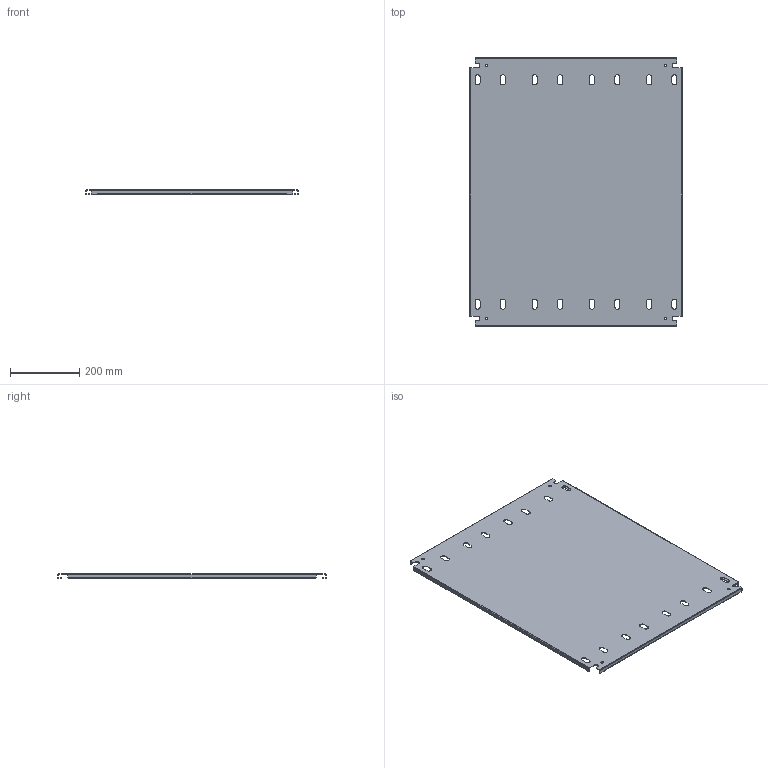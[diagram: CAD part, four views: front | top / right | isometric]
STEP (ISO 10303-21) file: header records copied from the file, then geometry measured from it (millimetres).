
FILE_DESCRIPTION(/* description */ ('1412BTSSCU 24.125" x 28" Right Inner Panel'),/* implementation_level */ '2;1');
FILE_NAME(/* name */ 'C:\Vault_Workspace\Inventor_Dwg\BoxCad\Result\1412BTSSCU07804DT\e-mail\3D\1412BTSSCU07804DTIP2.stp',/* time_stamp */ '2022-11-03T15:53:13-04:00',/* author */ ('BoxCad'),/* organization */ (''),/* preprocessor_version */ 'ST-DEVELOPER v18.1',/* originating_system */ 'Autodesk Inventor 2020',/* authorisation */ '');
FILE_SCHEMA (('AUTOMOTIVE_DESIGN { 1 0 10303 214 3 1 1 }'));
Length unit declared in the file: inch
Products named in the file (2): 1412BTSSCU07804DTIP2; 1412BTSSCU07804DTIP2-P
Assembly tree (1 placements, depth 2):
  1412BTSSCU07804DTIP2
    1412BTSSCU07804DTIP2-P
Bounding box: 612.77 x 774.7 x 13 mm (x, y, z)
Volume: 887378.4 mm3; surface area: 1035002.4 mm2
Topology: 1 solids, 1 shells, 174 faces, 516 edges, 344 vertices
Faces by surface type: plane 98, cylinder 76
Full cylindrical faces by diameter (mm): 7.366 x4
Entity records: 6001 total; most frequent: CARTESIAN_POINT 1037, ORIENTED_EDGE 1032, DIRECTION 1022, EDGE_CURVE 516, LINE 364, VECTOR 364, VERTEX_POINT 344, AXIS2_PLACEMENT_3D 329
